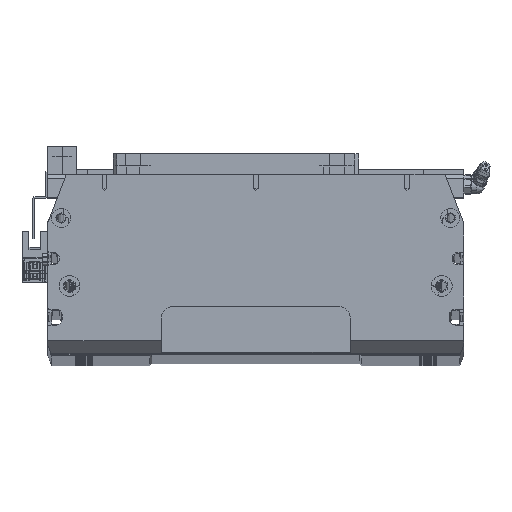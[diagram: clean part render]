
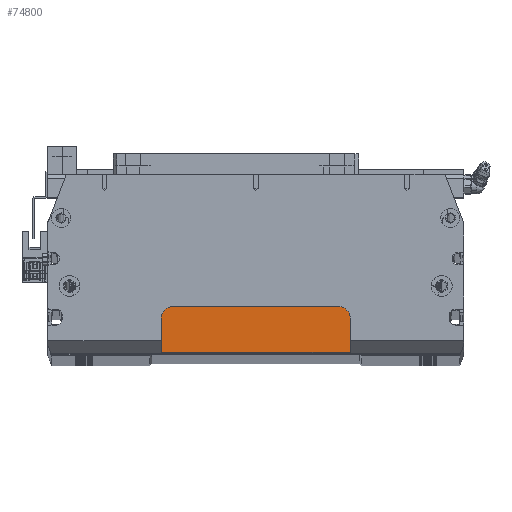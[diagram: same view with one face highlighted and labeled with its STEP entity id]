
A CAD part, top view. The second image highlights one B-rep face of the part: STEP entity #74800.
In plain terms, the highlighted planar face has unit normal (0, 0, 1) as drawn and (0, 1, 0) by its records, which use the part's own axes.
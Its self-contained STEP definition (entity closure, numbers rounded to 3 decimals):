
#4250 = VECTOR ( 'NONE', #86980, 1000. ) ;
#9641 = LINE ( 'NONE', #333230, #4250 ) ;
#31114 = CIRCLE ( 'NONE', #242107, 6. ) ;
#32657 = EDGE_CURVE ( 'NONE', #425330, #219954, #246549, .T. ) ;
#39899 = DIRECTION ( 'NONE',  ( 0., 0., -1. ) ) ;
#44543 = CARTESIAN_POINT ( 'NONE',  ( 44., 8., 39.25 ) ) ;
#45034 = CARTESIAN_POINT ( 'NONE',  ( -50., 8., 57.25 ) ) ;
#45719 = EDGE_LOOP ( 'NONE', ( #221648, #135949, #330690, #280452, #70606, #401592 ) ) ;
#55091 = VECTOR ( 'NONE', #149859, 1000. ) ;
#67045 = VECTOR ( 'NONE', #193169, 1000. ) ;
#70606 = ORIENTED_EDGE ( 'NONE', *, *, #272267, .T. ) ;
#72182 = CIRCLE ( 'NONE', #396993, 6. ) ;
#74800 = ADVANCED_FACE ( 'NONE', ( #121961 ), #376480, .F. ) ;
#86980 = DIRECTION ( 'NONE',  ( -1., 0., 0. ) ) ;
#106629 = CARTESIAN_POINT ( 'NONE',  ( 44., 8., 33.25 ) ) ;
#116493 = EDGE_CURVE ( 'NONE', #265231, #245766, #72182, .T. ) ;
#121961 = FACE_OUTER_BOUND ( 'NONE', #45719, .T. ) ;
#130583 = AXIS2_PLACEMENT_3D ( 'NONE', #233798, #315142, #312078 ) ;
#135949 = ORIENTED_EDGE ( 'NONE', *, *, #116493, .T. ) ;
#146566 = DIRECTION ( 'NONE',  ( 0., 1., 0. ) ) ;
#147727 = VECTOR ( 'NONE', #235934, 1000. ) ;
#149859 = DIRECTION ( 'NONE',  ( 0., 0., 1. ) ) ;
#156570 = DIRECTION ( 'NONE',  ( 0., 1., 0. ) ) ;
#157091 = CARTESIAN_POINT ( 'NONE',  ( 110., 8., 57.25 ) ) ;
#190711 = EDGE_CURVE ( 'NONE', #425330, #265231, #388938, .T. ) ;
#193169 = DIRECTION ( 'NONE',  ( -1., 0., 0. ) ) ;
#206979 = CARTESIAN_POINT ( 'NONE',  ( 50., 8., 39.25 ) ) ;
#207104 = CARTESIAN_POINT ( 'NONE',  ( -50., 8., 39.25 ) ) ;
#219954 = VERTEX_POINT ( 'NONE', #45034 ) ;
#221648 = ORIENTED_EDGE ( 'NONE', *, *, #190711, .T. ) ;
#233350 = DIRECTION ( 'NONE',  ( 0., 0., -1. ) ) ;
#233798 = CARTESIAN_POINT ( 'NONE',  ( 0., 8., 0. ) ) ;
#235850 = CARTESIAN_POINT ( 'NONE',  ( 50., 8., 57.25 ) ) ;
#235934 = DIRECTION ( 'NONE',  ( 0., 0., -1. ) ) ;
#242107 = AXIS2_PLACEMENT_3D ( 'NONE', #266330, #156570, #233350 ) ;
#245766 = VERTEX_POINT ( 'NONE', #106629 ) ;
#246549 = LINE ( 'NONE', #157091, #67045 ) ;
#256509 = CARTESIAN_POINT ( 'NONE',  ( -50., 8., 58.25 ) ) ;
#265231 = VERTEX_POINT ( 'NONE', #206979 ) ;
#266330 = CARTESIAN_POINT ( 'NONE',  ( -44., 8., 39.25 ) ) ;
#272267 = EDGE_CURVE ( 'NONE', #454914, #219954, #414184, .T. ) ;
#273751 = EDGE_CURVE ( 'NONE', #245766, #340342, #9641, .T. ) ;
#280452 = ORIENTED_EDGE ( 'NONE', *, *, #422862, .T. ) ;
#308055 = CARTESIAN_POINT ( 'NONE',  ( 50., 8., 58.25 ) ) ;
#312078 = DIRECTION ( 'NONE',  ( 0., 0., -1. ) ) ;
#315142 = DIRECTION ( 'NONE',  ( 0., -1., 0. ) ) ;
#330690 = ORIENTED_EDGE ( 'NONE', *, *, #273751, .T. ) ;
#333230 = CARTESIAN_POINT ( 'NONE',  ( -50., 8., 33.25 ) ) ;
#340342 = VERTEX_POINT ( 'NONE', #354166 ) ;
#354166 = CARTESIAN_POINT ( 'NONE',  ( -44., 8., 33.25 ) ) ;
#376480 = PLANE ( 'NONE',  #130583 ) ;
#388938 = LINE ( 'NONE', #308055, #147727 ) ;
#396993 = AXIS2_PLACEMENT_3D ( 'NONE', #44543, #146566, #39899 ) ;
#401592 = ORIENTED_EDGE ( 'NONE', *, *, #32657, .F. ) ;
#414184 = LINE ( 'NONE', #256509, #55091 ) ;
#422862 = EDGE_CURVE ( 'NONE', #340342, #454914, #31114, .T. ) ;
#425330 = VERTEX_POINT ( 'NONE', #235850 ) ;
#454914 = VERTEX_POINT ( 'NONE', #207104 ) ;
